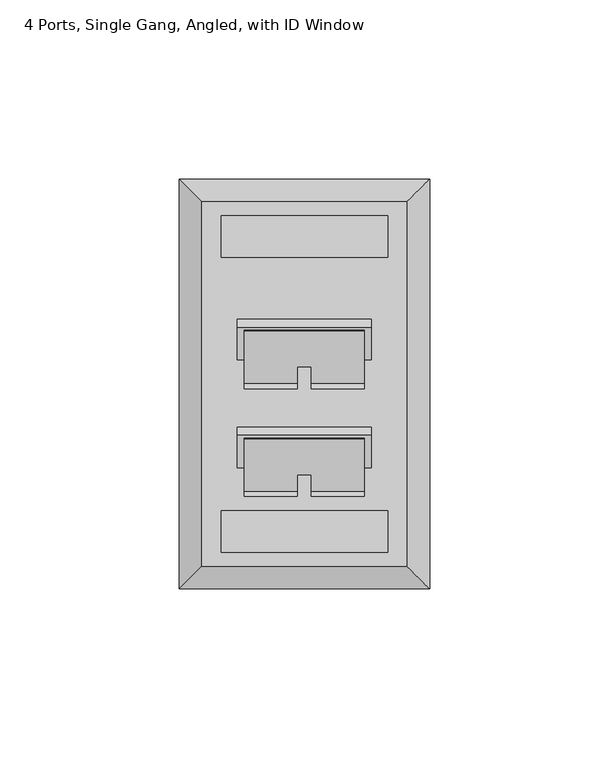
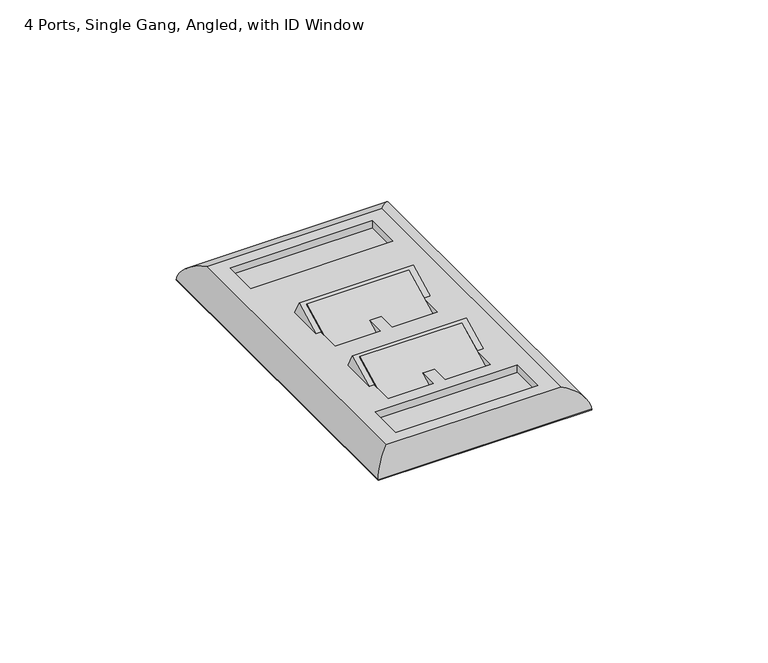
"""IFC4 building model written with IfcOpenShell, lengths in millimetres: electric appliance geometry, Data_Device-Work_Area-Leviton-QuickPort-Wallplate : 4 Ports, Single Gang, Angled, with ID Window."""

from ifc_helpers import new_model, si_unit, frame, origin, origin_with_axes, place, context, project, spatial, polyline, ellipse_curve, outline, extrude, faceted_brep, source, transform, mapped, element, save
from ifc_brep_helpers import plane_surface, cylinder_surface, advanced_brep


def electric_appliance_4_ports_single_gang_angled_with_id_window_49fd2a4d(model_context):
    return source(origin(), model_context, "Body", "SolidModel", [
        extrude(outline(polyline([(0.0, -16.51), (0.0, 0.0), (33.401, 0.0), (33.401, -16.51), (0.0, -16.51)])), frame((-6.3246, -18.8557048, -2.12579), z_axis=(0.0, -0.4558553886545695, 0.8900538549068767), x_axis=(-1.0, 0.0, 0.0)), (0.0, 0.0, 1.0), 6.35),
        extrude(outline(polyline([(0.0, -16.51), (0.0, 0.0), (33.401, 0.0), (33.401, -16.51), (0.0, -16.51)])), frame((-6.3246, 11.2505157, -2.12579), z_axis=(0.0, -0.4558553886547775, 0.8900538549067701), x_axis=(-1.0, 0.0, 0.0)), (0.0, 0.0, 1.0), 6.35),
        advanced_brep(
        [(5.5499, -42.6085, 6.35), (5.5499, 58.9915, 6.35), (-51.6001, 58.9915, 6.35), (-51.6001, -42.6085, 6.35), (-46.2661, 55.1815, 6.35), (0.2159, 55.1815, 6.35), (0.2159, 43.4975, 6.35), (-46.2661, 43.4975, 6.35), (0.2159, -27.1145, 6.35), (0.2159, -38.7985, 6.35), (-46.2661, -38.7985, 6.35), (-46.2661, -27.1145, 6.35), (-6.3246, -4.6472775, 6.35), (-6.3246, -23.1967169, 6.35), (-21.0566, -23.1967169, 6.35), (-21.0566, -4.6472775, 6.35), (-24.9936, -4.6472775, 6.35), (-24.9936, -23.1967169, 6.35), (-39.7256, -23.1967169, 6.35), (-39.7256, -4.6472775, 6.35), (-6.3246, 25.458943, 6.35), (-6.3246, 6.9095036, 6.35), (-21.0566, 6.9095036, 6.35), (-21.0566, 25.458943, 6.35), (-24.9936, 25.458943, 6.35), (-24.9936, 6.9095036, 6.35), (-39.7256, 6.9095036, 6.35), (-39.7256, 25.458943, 6.35), (11.8999, 65.3415, 0.0), (11.8999, -48.9585, 0.0), (-57.9501, -48.9585, 0.0), (-57.9501, 65.3415, 0.0), (-6.3246, -19.9444623, 0.0), (-6.3246, -1.3950229, 0.0), (-21.0566, -1.3950229, 0.0), (-21.0566, -19.9444623, 0.0), (-24.9936, -19.9444623, 0.0), (-24.9936, -1.3950229, 0.0), (-39.7256, -1.3950229, 0.0), (-39.7256, -19.9444623, 0.0), (-6.3246, 10.1617582, 0.0), (-6.3246, 28.7111975, 0.0), (-21.0566, 28.7111975, 0.0), (-21.0566, 10.1617582, 0.0), (-24.9936, 10.1617582, 0.0), (-24.9936, 28.7111975, 0.0), (-39.7256, 28.7111975, 0.0), (-39.7256, 10.1617582, 0.0), (-57.9501, 65.3415, 0.254), (11.8999, 65.3415, 0.254), (-57.9501, -48.9585, 0.254), (11.8999, -48.9585, 0.254), (0.2159, 55.1815, 3.81), (-46.2661, 55.1815, 3.81), (-46.2661, 43.4975, 3.81), (0.2159, 43.4975, 3.81), (0.2159, -38.7985, 3.81), (0.2159, -27.1145, 3.81), (-46.2661, -27.1145, 3.81), (-46.2661, -38.7985, 3.81)],
        [
            (0, 1),
            (1, 2),
            (2, 3),
            (3, 0),
            (4, 5),
            (5, 6),
            (6, 7),
            (7, 4),
            (8, 9),
            (9, 10),
            (10, 11),
            (11, 8),
            (12, 13),
            (13, 14),
            (14, 15),
            (15, 12),
            (16, 17),
            (17, 18),
            (18, 19),
            (19, 16),
            (20, 21),
            (21, 22),
            (22, 23),
            (23, 20),
            (24, 25),
            (25, 26),
            (26, 27),
            (27, 24),
            (28, 29),
            (29, 30),
            (30, 31),
            (31, 28),
            (32, 33),
            (33, 34),
            (34, 35),
            (35, 32),
            (36, 37),
            (37, 38),
            (38, 39),
            (39, 36),
            (40, 41),
            (41, 42),
            (42, 43),
            (43, 40),
            (44, 45),
            (45, 46),
            (46, 47),
            (47, 44),
            (31, 48),
            (48, 49),
            (49, 28),
            (30, 50),
            (50, 48),
            (29, 51),
            (51, 50),
            (49, 51),
            (52, 53),
            (53, 54),
            (54, 55),
            (55, 52),
            (56, 57),
            (57, 58),
            (58, 59),
            (59, 56),
            (52, 5),
            (4, 53),
            (7, 54),
            (6, 55),
            (56, 9),
            (8, 57),
            (11, 58),
            (10, 59),
            (12, 33),
            (32, 13),
            (35, 14),
            (34, 15),
            (16, 37),
            (36, 17),
            (39, 18),
            (38, 19),
            (20, 41),
            (40, 21),
            (43, 22),
            (42, 23),
            (24, 45),
            (44, 25),
            (47, 26),
            (46, 27),
            (0, 51, ellipse_curve(frame((5.5499, -42.6085, -0.0052917), z_axis=(0.7071067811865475, 0.7071067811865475, 0.0), x_axis=(0.7071067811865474, -0.7071067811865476, 0.0)), 8.9877397, 6.3552917)),
            (49, 1, ellipse_curve(frame((5.5499, 58.9915, -0.0052917), z_axis=(0.7071067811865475, -0.7071067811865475, 0.0), x_axis=(-0.7071067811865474, -0.7071067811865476, 0.0)), 8.9877397, 6.3552917)),
            (3, 50, ellipse_curve(frame((-51.6001, -42.6085, -0.0052917), z_axis=(0.7071067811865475, -0.7071067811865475, 0.0), x_axis=(-0.7071067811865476, -0.7071067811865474, 0.0)), 8.9877397, 6.3552917)),
            (2, 48, ellipse_curve(frame((-51.6001, 58.9915, -0.0052917), z_axis=(-0.7071067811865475, -0.7071067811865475, 0.0), x_axis=(-0.7071067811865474, 0.7071067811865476, 0.0)), 8.9877397, 6.3552917)),
        ],
        [
            plane_surface(frame((-57.9501, 65.3415, 6.35), z_axis=(0.0, 0.0, 1.0), x_axis=(-1.0, 0.0, 0.0))),
            plane_surface(frame((-57.9501, 65.3415, 0.0), z_axis=(0.0, 0.0, -1.0), x_axis=(1.0, 0.0, 0.0))),
            plane_surface(frame((11.8999, 65.3415, 6.35), z_axis=(0.0, 1.0, 0.0), x_axis=(0.0, 0.0, -1.0))),
            plane_surface(frame((-57.9501, 65.3415, 6.35), z_axis=(-1.0, 0.0, 0.0), x_axis=(0.0, 0.0, -1.0))),
            plane_surface(frame((-57.9501, -48.9585, 6.35), z_axis=(0.0, -1.0, 0.0), x_axis=(0.0, 0.0, -1.0))),
            plane_surface(frame((11.8999, -48.9585, 6.35), z_axis=(1.0, 0.0, 0.0), x_axis=(0.0, 0.0, -1.0))),
            plane_surface(frame((-46.2661, 55.1815, 3.81), z_axis=(0.0, 0.0, 1.0), x_axis=(1.0, 0.0, 0.0))),
            plane_surface(frame((0.2159, 55.1815, 6.35), z_axis=(0.0, -1.0, 0.0), x_axis=(0.0, 0.0, -1.0))),
            plane_surface(frame((-46.2661, 55.1815, 6.35), z_axis=(1.0, 0.0, 0.0), x_axis=(0.0, 0.0, -1.0))),
            plane_surface(frame((-46.2661, 43.4975, 6.35), z_axis=(0.0, 1.0, 0.0), x_axis=(0.0, 0.0, -1.0))),
            plane_surface(frame((0.2159, 43.4975, 6.35), z_axis=(-1.0, 0.0, 0.0), x_axis=(0.0, 0.0, -1.0))),
            plane_surface(frame((0.2159, -38.7985, 6.35), z_axis=(-1.0, 0.0, 0.0), x_axis=(0.0, 0.0, -1.0))),
            plane_surface(frame((0.2159, -27.1145, 6.35), z_axis=(0.0, -1.0, 0.0), x_axis=(0.0, 0.0, -1.0))),
            plane_surface(frame((-46.2661, -27.1145, 6.35), z_axis=(1.0, 0.0, 0.0), x_axis=(0.0, 0.0, -1.0))),
            plane_surface(frame((-46.2661, -38.7985, 6.35), z_axis=(0.0, 1.0, 0.0), x_axis=(0.0, 0.0, -1.0))),
            plane_surface(frame((-6.3246, -0.1083612, -2.5121963), z_axis=(-1.0, 0.0, 0.0), x_axis=(0.0, -0.45585538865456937, 0.8900538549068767))),
            plane_surface(frame((-6.3246, -14.8031504, -10.0383688), z_axis=(0.0, 0.8900538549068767, 0.4558553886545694), x_axis=(0.0, -0.4558553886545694, 0.8900538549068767))),
            plane_surface(frame((-21.0566, -14.8031504, -10.0383688), z_axis=(1.0, 0.0, 0.0), x_axis=(0.0, -0.4558553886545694, 0.8900538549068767))),
            plane_surface(frame((-21.0566, -0.1083612, -2.5121963), z_axis=(0.0, -0.8900538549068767, -0.45585538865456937), x_axis=(0.0, -0.45585538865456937, 0.8900538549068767))),
            plane_surface(frame((-24.9936, -0.1083612, -2.5121963), z_axis=(-1.0, 0.0, 0.0), x_axis=(0.0, -0.45585538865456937, 0.8900538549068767))),
            plane_surface(frame((-24.9936, -14.8031504, -10.0383688), z_axis=(0.0, 0.8900538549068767, 0.4558553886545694), x_axis=(0.0, -0.4558553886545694, 0.8900538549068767))),
            plane_surface(frame((-39.7256, -14.8031504, -10.0383688), z_axis=(1.0, 0.0, 0.0), x_axis=(0.0, -0.4558553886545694, 0.8900538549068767))),
            plane_surface(frame((-39.7256, -0.1083612, -2.5121963), z_axis=(0.0, -0.8900538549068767, -0.45585538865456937), x_axis=(0.0, -0.45585538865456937, 0.8900538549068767))),
            plane_surface(frame((-6.3246, 29.9978593, -2.5121963), z_axis=(-1.0, 0.0, 0.0), x_axis=(0.0, -0.45585538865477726, 0.8900538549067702))),
            plane_surface(frame((-6.3246, 15.3030701, -10.0383688), z_axis=(0.0, 0.8900538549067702, 0.45585538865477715), x_axis=(0.0, -0.45585538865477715, 0.8900538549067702))),
            plane_surface(frame((-21.0566, 15.3030701, -10.0383688), z_axis=(1.0, 0.0, 0.0), x_axis=(0.0, -0.45585538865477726, 0.8900538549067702))),
            plane_surface(frame((-21.0566, 29.9978593, -2.5121963), z_axis=(0.0, -0.8900538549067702, -0.45585538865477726), x_axis=(0.0, -0.45585538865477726, 0.8900538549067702))),
            plane_surface(frame((-24.9936, 29.9978593, -2.5121963), z_axis=(-1.0, 0.0, 0.0), x_axis=(0.0, -0.45585538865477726, 0.8900538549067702))),
            plane_surface(frame((-24.9936, 15.3030701, -10.0383688), z_axis=(0.0, 0.8900538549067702, 0.45585538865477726), x_axis=(0.0, -0.45585538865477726, 0.8900538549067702))),
            plane_surface(frame((-39.7256, 15.3030701, -10.0383688), z_axis=(1.0, 0.0, 0.0), x_axis=(0.0, -0.45585538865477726, 0.8900538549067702))),
            plane_surface(frame((-39.7256, 29.9978593, -2.5121963), z_axis=(0.0, -0.8900538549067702, -0.45585538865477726), x_axis=(0.0, -0.45585538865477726, 0.8900538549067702))),
            cylinder_surface(frame((5.5499, 65.3415, -0.0052917), z_axis=(0.0, -1.0, 0.0), x_axis=(1.0, 0.0, 0.0)), 6.3552917),
            cylinder_surface(frame((11.8999, -42.6085, -0.0052917), z_axis=(-1.0, 0.0, 0.0), x_axis=(0.0, -1.0, 0.0)), 6.3552917),
            cylinder_surface(frame((-51.6001, -48.9585, -0.0052917), z_axis=(0.0, 1.0, 0.0), x_axis=(-1.0, 0.0, 0.0)), 6.3552917),
            cylinder_surface(frame((-57.9501, 58.9915, -0.0052917), z_axis=(1.0, 0.0, 0.0), x_axis=(0.0, 1.0, 0.0)), 6.3552917),
        ],
        [
            (0, [[1, 2, 3, 4], [5, 6, 7, 8], [9, 10, 11, 12], [13, 14, 15, 16], [17, 18, 19, 20], [21, 22, 23, 24], [25, 26, 27, 28]]),
            (1, [[29, 30, 31, 32], [33, 34, 35, 36], [37, 38, 39, 40], [41, 42, 43, 44], [45, 46, 47, 48]]),
            (2, [[-32, 49, 50, 51]]),
            (3, [[-31, 52, 53, -49]]),
            (4, [[-30, 54, 55, -52]]),
            (5, [[-29, -51, 56, -54]]),
            (6, [[57, 58, 59, 60]]),
            (6, [[61, 62, 63, 64]]),
            (7, [[-57, 65, -5, 66]]),
            (8, [[-58, -66, -8, 67]]),
            (9, [[-59, -67, -7, 68]]),
            (10, [[-60, -68, -6, -65]]),
            (11, [[-61, 69, -9, 70]]),
            (12, [[-62, -70, -12, 71]]),
            (13, [[-63, -71, -11, 72]]),
            (14, [[-64, -72, -10, -69]]),
            (15, [[73, -33, 74, -13]]),
            (16, [[-74, -36, 75, -14]]),
            (17, [[-75, -35, 76, -15]]),
            (18, [[-73, -16, -76, -34]]),
            (19, [[77, -37, 78, -17]]),
            (20, [[-78, -40, 79, -18]]),
            (21, [[-79, -39, 80, -19]]),
            (22, [[-77, -20, -80, -38]]),
            (23, [[81, -41, 82, -21]]),
            (24, [[-82, -44, 83, -22]]),
            (25, [[-83, -43, 84, -23]]),
            (26, [[-81, -24, -84, -42]]),
            (27, [[85, -45, 86, -25]]),
            (28, [[-86, -48, 87, -26]]),
            (29, [[-87, -47, 88, -27]]),
            (30, [[-85, -28, -88, -46]]),
            (31, [[89, -56, 90, -1]]),
            (32, [[-89, -4, 91, -55]]),
            (33, [[-91, -3, 92, -53]]),
            (34, [[-90, -50, -92, -2]]),
        ],
    ),
        faceted_brep([(-4.3561, 13.8695691, 6.35), (-4.3561, 26.5914963, 6.35), (-4.3561, 23.9478272, 11.5117419), (-41.6941, 13.8695691, 6.35), (-41.6941, 23.9478272, 11.5117419), (-41.6941, 26.5914963, 6.35), (-6.3246, 23.0506231, 11.0522244), (-6.3246, 25.458943, 6.35), (-6.3246, 13.8695691, 6.35), (-21.0566, 25.458943, 6.35), (-21.0566, 23.0506231, 11.0522244), (-21.0566, 13.8695691, 6.35), (-24.9936, 23.0506231, 11.0522244), (-24.9936, 25.458943, 6.35), (-24.9936, 13.8695691, 6.35), (-39.7256, 25.458943, 6.35), (-39.7256, 23.0506231, 11.0522244), (-39.7256, 13.8695691, 6.35)], [[[0, 1, 2]], [[3, 4, 5]], [[6, 7, 8]], [[9, 10, 11]], [[7, 6, 10, 9]], [[12, 13, 14]], [[15, 16, 17]], [[13, 12, 16, 15]], [[0, 2, 4, 3, 17, 16, 12, 14, 11, 10, 6, 8]], [[1, 0, 8, 7, 9, 11, 14, 13, 15, 17, 3, 5]], [[2, 1, 5, 4]]]),
        faceted_brep([(-4.3561, -16.2366514, 6.35), (-4.3561, -3.5147242, 6.35), (-4.3561, -6.1583933, 11.5117419), (-41.6941, -16.2366514, 6.35), (-41.6941, -6.1583933, 11.5117419), (-41.6941, -3.5147242, 6.35), (-6.3246, -7.0555973, 11.0522244), (-6.3246, -4.6472775, 6.35), (-6.3246, -16.2366514, 6.35), (-21.0566, -4.6472775, 6.35), (-21.0566, -7.0555973, 11.0522244), (-21.0566, -16.2366514, 6.35), (-24.9936, -7.0555973, 11.0522244), (-24.9936, -4.6472775, 6.35), (-24.9936, -16.2366514, 6.35), (-39.7256, -4.6472775, 6.35), (-39.7256, -7.0555973, 11.0522244), (-39.7256, -16.2366514, 6.35)], [[[0, 1, 2]], [[3, 4, 5]], [[6, 7, 8]], [[9, 10, 11]], [[7, 6, 10, 9]], [[12, 13, 14]], [[15, 16, 17]], [[13, 12, 16, 15]], [[0, 2, 4, 3, 17, 16, 12, 14, 11, 10, 6, 8]], [[1, 0, 8, 7, 9, 11, 14, 13, 15, 17, 3, 5]], [[2, 1, 5, 4]]]),
        extrude(outline(polyline([(11.6459, 65.0875), (11.6459, -48.7045), (-57.6961, -48.7045), (-57.6961, 65.0875), (11.6459, 65.0875)])), origin_with_axes(), (0.0, 0.0, 1.0), 0.254),
    ])


if __name__ == "__main__":
    model = new_model("IFC4")
    model_context = context("Model", 3, world=origin())
    ifc_project = project(units=[si_unit("LENGTHUNIT", "METRE", prefix="MILLI")], contexts=[model_context])
    site = spatial("IfcSite", under=ifc_project)
    building = spatial("IfcBuilding", under=site)
    placement = place(None, origin())
    electric_appliance_4_ports_single_gang_angled_with_id_window_shape = electric_appliance_4_ports_single_gang_angled_with_id_window_49fd2a4d(model_context)
    element("IfcElectricAppliance", 1, ObjectType="Data_Device-Work_Area-Leviton-QuickPort-Wallplate : 4 Ports, Single Gang, Angled, with ID Window", at=placement, inside=building, context=model_context, shape_type="MappedRepresentation", body=[
        mapped(electric_appliance_4_ports_single_gang_angled_with_id_window_shape, transform((0.0, 0.0, 0.0), x_axis=(1.0, 0.0, 0.0), y_axis=(0.0, 1.0, 0.0), z_axis=(0.0, 0.0, 1.0))),
    ])
    save(model, "model.ifc")
